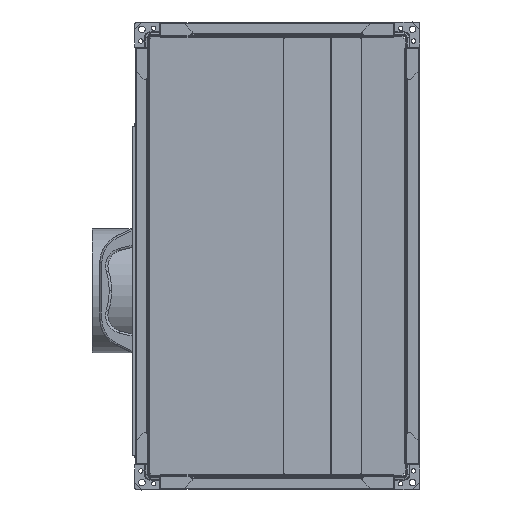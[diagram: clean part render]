
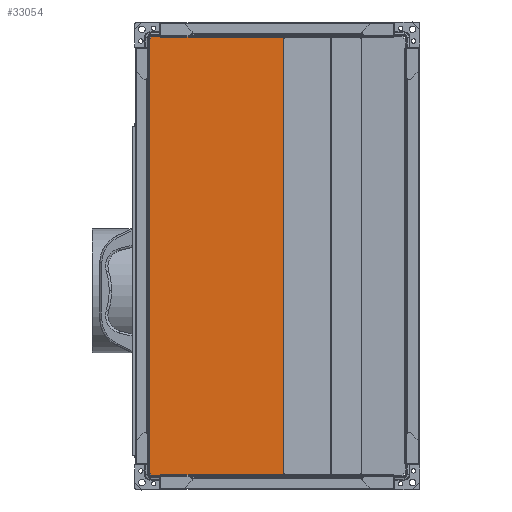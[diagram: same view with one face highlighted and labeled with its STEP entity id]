
A CAD part, left-side view. The second image highlights one B-rep face of the part: STEP entity #33054.
In plain terms, the highlighted planar face has unit normal (-1, 0, 0).
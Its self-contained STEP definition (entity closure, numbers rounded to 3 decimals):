
#2816=FACE_OUTER_BOUND('',#4579,.T.);
#4579=EDGE_LOOP('',(#23950,#23951,#23952,#23953,#23954,#23955,#23956,#23957,
#23958,#23959,#23960,#23961));
#7538=LINE('',#52127,#10587);
#7542=LINE('',#52134,#10591);
#7568=LINE('',#52191,#10617);
#7572=LINE('',#52199,#10621);
#7577=LINE('',#52210,#10626);
#7625=LINE('',#52308,#10674);
#7640=LINE('',#52332,#10689);
#7641=LINE('',#52334,#10690);
#7642=LINE('',#52336,#10691);
#7643=LINE('',#52338,#10692);
#7644=LINE('',#52339,#10693);
#7645=LINE('',#52340,#10694);
#10587=VECTOR('',#38522,10.);
#10591=VECTOR('',#38528,10.);
#10617=VECTOR('',#38570,10.);
#10621=VECTOR('',#38576,10.);
#10626=VECTOR('',#38583,10.);
#10674=VECTOR('',#38657,10.);
#10689=VECTOR('',#38678,10.);
#10690=VECTOR('',#38681,10.);
#10691=VECTOR('',#38682,10.);
#10692=VECTOR('',#38683,10.);
#10693=VECTOR('',#38684,10.);
#10694=VECTOR('',#38685,10.);
#13765=VERTEX_POINT('',#52124);
#13766=VERTEX_POINT('',#52126);
#13768=VERTEX_POINT('',#52132);
#13790=VERTEX_POINT('',#52189);
#13791=VERTEX_POINT('',#52190);
#13794=VERTEX_POINT('',#52198);
#13798=VERTEX_POINT('',#52207);
#13799=VERTEX_POINT('',#52209);
#13836=VERTEX_POINT('',#52307);
#13842=VERTEX_POINT('',#52330);
#13843=VERTEX_POINT('',#52335);
#13844=VERTEX_POINT('',#52337);
#17442=EDGE_CURVE('',#13765,#13766,#7538,.T.);
#17446=EDGE_CURVE('',#13768,#13765,#7542,.T.);
#17472=EDGE_CURVE('',#13790,#13791,#7568,.T.);
#17476=EDGE_CURVE('',#13791,#13794,#7572,.T.);
#17481=EDGE_CURVE('',#13798,#13799,#7577,.T.);
#17529=EDGE_CURVE('',#13836,#13799,#7625,.T.);
#17544=EDGE_CURVE('',#13842,#13798,#7640,.T.);
#17545=EDGE_CURVE('',#13790,#13836,#7641,.T.);
#17546=EDGE_CURVE('',#13843,#13842,#7642,.T.);
#17547=EDGE_CURVE('',#13844,#13843,#7643,.T.);
#17548=EDGE_CURVE('',#13844,#13766,#7644,.T.);
#17549=EDGE_CURVE('',#13768,#13794,#7645,.T.);
#23950=ORIENTED_EDGE('',*,*,#17545,.T.);
#23951=ORIENTED_EDGE('',*,*,#17529,.T.);
#23952=ORIENTED_EDGE('',*,*,#17481,.F.);
#23953=ORIENTED_EDGE('',*,*,#17544,.F.);
#23954=ORIENTED_EDGE('',*,*,#17546,.F.);
#23955=ORIENTED_EDGE('',*,*,#17547,.F.);
#23956=ORIENTED_EDGE('',*,*,#17548,.T.);
#23957=ORIENTED_EDGE('',*,*,#17442,.F.);
#23958=ORIENTED_EDGE('',*,*,#17446,.F.);
#23959=ORIENTED_EDGE('',*,*,#17549,.T.);
#23960=ORIENTED_EDGE('',*,*,#17476,.F.);
#23961=ORIENTED_EDGE('',*,*,#17472,.F.);
#30700=PLANE('',#34575);
#33054=ADVANCED_FACE('',(#2816),#30700,.F.);
#34575=AXIS2_PLACEMENT_3D('',#52333,#38679,#38680);
#38522=DIRECTION('',(0.,-1.,0.));
#38528=DIRECTION('',(0.,0.,1.));
#38570=DIRECTION('',(0.,1.,0.));
#38576=DIRECTION('',(0.,0.,1.));
#38583=DIRECTION('',(0.,0.,-1.));
#38657=DIRECTION('',(0.,-1.,0.));
#38678=DIRECTION('',(0.,1.,0.));
#38679=DIRECTION('center_axis',(1.,0.,0.));
#38680=DIRECTION('ref_axis',(0.,-1.,0.));
#38681=DIRECTION('',(0.,0.,-1.));
#38682=DIRECTION('',(0.,0.,-1.));
#38683=DIRECTION('',(0.,-1.,0.));
#38684=DIRECTION('',(0.,0.,1.));
#38685=DIRECTION('',(0.,1.,0.));
#52124=CARTESIAN_POINT('',(14.763,-15.569,583.5));
#52126=CARTESIAN_POINT('',(14.763,-196.74,583.5));
#52127=CARTESIAN_POINT('',(14.763,-105.937,583.5));
#52132=CARTESIAN_POINT('',(14.763,-15.569,581.5));
#52134=CARTESIAN_POINT('',(14.763,-15.569,433.25));
#52189=CARTESIAN_POINT('',(14.763,-15.569,-13.5));
#52190=CARTESIAN_POINT('',(14.763,-13.569,-13.5));
#52191=CARTESIAN_POINT('',(14.763,-14.593,-13.5));
#52198=CARTESIAN_POINT('',(14.763,-13.569,581.5));
#52199=CARTESIAN_POINT('',(14.763,-13.569,397.75));
#52207=CARTESIAN_POINT('',(14.763,-196.74,-13.5));
#52209=CARTESIAN_POINT('',(14.763,-196.74,-15.5));
#52210=CARTESIAN_POINT('',(14.763,-196.74,134.75));
#52307=CARTESIAN_POINT('',(14.763,-15.569,-15.5));
#52308=CARTESIAN_POINT('',(14.763,-105.937,-15.5));
#52330=CARTESIAN_POINT('',(14.763,-197.569,-13.5));
#52332=CARTESIAN_POINT('',(14.763,-183.525,-13.5));
#52333=CARTESIAN_POINT('Origin',(14.763,-105.72,284.));
#52334=CARTESIAN_POINT('',(14.763,-15.569,134.75));
#52335=CARTESIAN_POINT('',(14.763,-197.569,581.5));
#52336=CARTESIAN_POINT('',(14.763,-197.569,284.));
#52337=CARTESIAN_POINT('',(14.763,-196.74,581.5));
#52338=CARTESIAN_POINT('',(14.763,-151.937,581.5));
#52339=CARTESIAN_POINT('',(14.763,-196.74,433.75));
#52340=CARTESIAN_POINT('',(14.763,-60.168,581.5));
